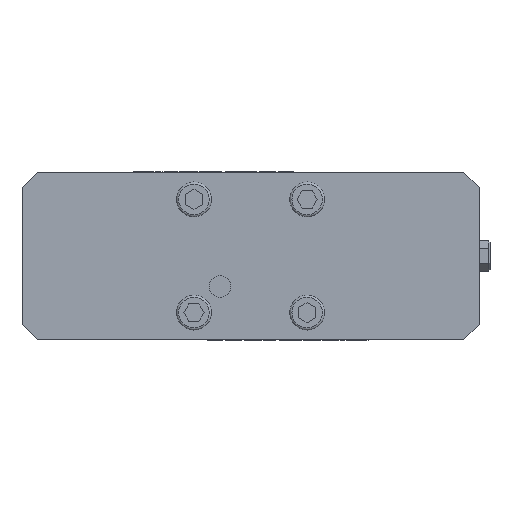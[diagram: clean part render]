
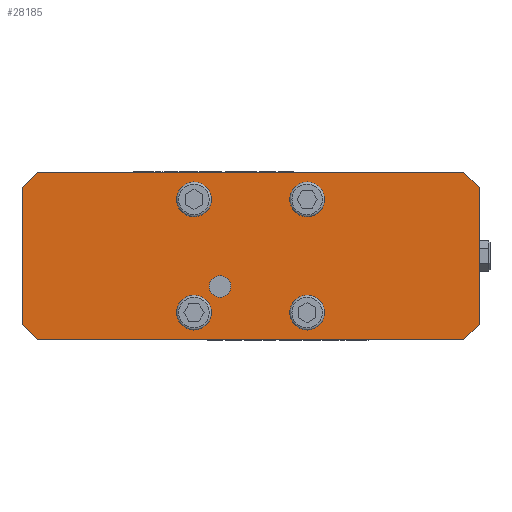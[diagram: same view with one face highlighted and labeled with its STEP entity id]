
A CAD part, front view. The second image highlights one B-rep face of the part: STEP entity #28185.
In plain terms, the highlighted planar face has unit normal (0, -1, 0).
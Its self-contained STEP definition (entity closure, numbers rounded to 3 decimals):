
#14 = DIRECTION ( 'NONE',  ( 0., 0., -1. ) ) ;
#155 = EDGE_LOOP ( 'NONE', ( #32147, #12538, #28927, #29296, #6470, #33580, #22033, #28807 ) ) ;
#275 = VERTEX_POINT ( 'NONE', #18134 ) ;
#702 = FACE_BOUND ( 'NONE', #33948, .T. ) ;
#783 = CARTESIAN_POINT ( 'NONE',  ( 26., 0., 26. ) ) ;
#989 = EDGE_CURVE ( 'NONE', #9823, #9823, #19370, .T. ) ;
#1080 = EDGE_LOOP ( 'NONE', ( #4670 ) ) ;
#1379 = FACE_OUTER_BOUND ( 'NONE', #155, .T. ) ;
#2511 = EDGE_CURVE ( 'NONE', #36666, #3807, #13065, .T. ) ;
#2675 = DIRECTION ( 'NONE',  ( 0., 0., -1. ) ) ;
#2686 = LINE ( 'NONE', #23430, #21104 ) ;
#2798 = AXIS2_PLACEMENT_3D ( 'NONE', #39725, #22698, #22918 ) ;
#3375 = EDGE_CURVE ( 'NONE', #36666, #20700, #42544, .T. ) ;
#3541 = CIRCLE ( 'NONE', #2798, 6. ) ;
#3807 = VERTEX_POINT ( 'NONE', #24699 ) ;
#4638 = DIRECTION ( 'NONE',  ( 1., 0., 0. ) ) ;
#4670 = ORIENTED_EDGE ( 'NONE', *, *, #6552, .F. ) ;
#5227 = AXIS2_PLACEMENT_3D ( 'NONE', #783, #14339, #30860 ) ;
#5484 = LINE ( 'NONE', #19267, #41872 ) ;
#6470 = ORIENTED_EDGE ( 'NONE', *, *, #2511, .F. ) ;
#6552 = EDGE_CURVE ( 'NONE', #17693, #17693, #41516, .T. ) ;
#6769 = EDGE_CURVE ( 'NONE', #17487, #17487, #26479, .T. ) ;
#6988 = AXIS2_PLACEMENT_3D ( 'NONE', #24177, #26911, #14 ) ;
#8017 = CARTESIAN_POINT ( 'NONE',  ( -26., 0., -26. ) ) ;
#8736 = LINE ( 'NONE', #25924, #33546 ) ;
#8985 = ORIENTED_EDGE ( 'NONE', *, *, #37872, .F. ) ;
#9098 = DIRECTION ( 'NONE',  ( -0.707, 0., -0.707 ) ) ;
#9152 = AXIS2_PLACEMENT_3D ( 'NONE', #17689, #28114, #12004 ) ;
#9823 = VERTEX_POINT ( 'NONE', #33718 ) ;
#10687 = CARTESIAN_POINT ( 'NONE',  ( -26., 0., 20. ) ) ;
#11490 = EDGE_CURVE ( 'NONE', #21698, #11630, #38522, .T. ) ;
#11630 = VERTEX_POINT ( 'NONE', #33387 ) ;
#11969 = DIRECTION ( 'NONE',  ( 0., 1., 0. ) ) ;
#12004 = DIRECTION ( 'NONE',  ( 0., 0., 1. ) ) ;
#12352 = EDGE_CURVE ( 'NONE', #14620, #32855, #8736, .T. ) ;
#12538 = ORIENTED_EDGE ( 'NONE', *, *, #32262, .T. ) ;
#12654 = EDGE_LOOP ( 'NONE', ( #26897 ) ) ;
#12833 = CARTESIAN_POINT ( 'NONE',  ( 105., 0., -38.5 ) ) ;
#13065 = LINE ( 'NONE', #12833, #28492 ) ;
#13228 = LINE ( 'NONE', #44526, #40751 ) ;
#14291 = VERTEX_POINT ( 'NONE', #10687 ) ;
#14317 = DIRECTION ( 'NONE',  ( -0.707, 0., 0.707 ) ) ;
#14339 = DIRECTION ( 'NONE',  ( 0., -1., 0. ) ) ;
#14543 = LINE ( 'NONE', #30900, #40081 ) ;
#14620 = VERTEX_POINT ( 'NONE', #25053 ) ;
#15437 = EDGE_CURVE ( 'NONE', #18486, #21698, #14543, .T. ) ;
#15552 = CARTESIAN_POINT ( 'NONE',  ( 105., 0., -31.5 ) ) ;
#17058 = EDGE_CURVE ( 'NONE', #18486, #20700, #13228, .T. ) ;
#17487 = VERTEX_POINT ( 'NONE', #35437 ) ;
#17689 = CARTESIAN_POINT ( 'NONE',  ( 26., 0., -26. ) ) ;
#17693 = VERTEX_POINT ( 'NONE', #28118 ) ;
#18134 = CARTESIAN_POINT ( 'NONE',  ( 20., 0., 26. ) ) ;
#18486 = VERTEX_POINT ( 'NONE', #29312 ) ;
#19125 = DIRECTION ( 'NONE',  ( 0., 0., -1. ) ) ;
#19267 = CARTESIAN_POINT ( 'NONE',  ( -98., 0., 38.5 ) ) ;
#19370 = CIRCLE ( 'NONE', #26594, 6. ) ;
#20668 = CARTESIAN_POINT ( 'NONE',  ( 98., 0., 38.5 ) ) ;
#20700 = VERTEX_POINT ( 'NONE', #42457 ) ;
#21104 = VECTOR ( 'NONE', #26838, 1000. ) ;
#21276 = CARTESIAN_POINT ( 'NONE',  ( 105., 0., 38.5 ) ) ;
#21698 = VERTEX_POINT ( 'NONE', #20668 ) ;
#21828 = DIRECTION ( 'NONE',  ( 0., -1., 0. ) ) ;
#22033 = ORIENTED_EDGE ( 'NONE', *, *, #17058, .F. ) ;
#22698 = DIRECTION ( 'NONE',  ( 0., -1., 0. ) ) ;
#22918 = DIRECTION ( 'NONE',  ( 0., 0., -1. ) ) ;
#23250 = DIRECTION ( 'NONE',  ( -1., 0., 0. ) ) ;
#23430 = CARTESIAN_POINT ( 'NONE',  ( -98., 0., -38.5 ) ) ;
#24177 = CARTESIAN_POINT ( 'NONE',  ( -14., 0., -14. ) ) ;
#24699 = CARTESIAN_POINT ( 'NONE',  ( -98., 0., -38.5 ) ) ;
#25053 = CARTESIAN_POINT ( 'NONE',  ( -105., 0., 31.5 ) ) ;
#25091 = FACE_BOUND ( 'NONE', #32739, .T. ) ;
#25310 = CARTESIAN_POINT ( 'NONE',  ( 105., 0., -38.5 ) ) ;
#25924 = CARTESIAN_POINT ( 'NONE',  ( -105., 0., -38.5 ) ) ;
#26323 = EDGE_CURVE ( 'NONE', #32855, #3807, #2686, .T. ) ;
#26479 = CIRCLE ( 'NONE', #6988, 5. ) ;
#26594 = AXIS2_PLACEMENT_3D ( 'NONE', #8017, #21828, #4638 ) ;
#26838 = DIRECTION ( 'NONE',  ( 0.707, 0., -0.707 ) ) ;
#26897 = ORIENTED_EDGE ( 'NONE', *, *, #33418, .F. ) ;
#26911 = DIRECTION ( 'NONE',  ( 0., -1., 0. ) ) ;
#28074 = PLANE ( 'NONE',  #38033 ) ;
#28114 = DIRECTION ( 'NONE',  ( 0., -1., 0. ) ) ;
#28118 = CARTESIAN_POINT ( 'NONE',  ( 26., 0., -20. ) ) ;
#28185 = ADVANCED_FACE ( 'NONE', ( #39191, #41715, #32285, #25091, #702, #1379 ), #28074, .F. ) ;
#28339 = CIRCLE ( 'NONE', #5227, 6. ) ;
#28492 = VECTOR ( 'NONE', #23250, 1000. ) ;
#28807 = ORIENTED_EDGE ( 'NONE', *, *, #15437, .T. ) ;
#28927 = ORIENTED_EDGE ( 'NONE', *, *, #12352, .T. ) ;
#29296 = ORIENTED_EDGE ( 'NONE', *, *, #26323, .T. ) ;
#29312 = CARTESIAN_POINT ( 'NONE',  ( 105., 0., 31.5 ) ) ;
#30645 = VECTOR ( 'NONE', #39193, 1000. ) ;
#30860 = DIRECTION ( 'NONE',  ( -1., 0., 0. ) ) ;
#30900 = CARTESIAN_POINT ( 'NONE',  ( 105., 0., 31.5 ) ) ;
#32138 = VECTOR ( 'NONE', #36229, 1000. ) ;
#32147 = ORIENTED_EDGE ( 'NONE', *, *, #11490, .T. ) ;
#32262 = EDGE_CURVE ( 'NONE', #11630, #14620, #5484, .T. ) ;
#32285 = FACE_BOUND ( 'NONE', #1080, .T. ) ;
#32739 = EDGE_LOOP ( 'NONE', ( #41787 ) ) ;
#32855 = VERTEX_POINT ( 'NONE', #34070 ) ;
#33387 = CARTESIAN_POINT ( 'NONE',  ( -98., 0., 38.5 ) ) ;
#33418 = EDGE_CURVE ( 'NONE', #275, #275, #28339, .T. ) ;
#33546 = VECTOR ( 'NONE', #19125, 1000. ) ;
#33580 = ORIENTED_EDGE ( 'NONE', *, *, #3375, .T. ) ;
#33718 = CARTESIAN_POINT ( 'NONE',  ( -20., 0., -26. ) ) ;
#33948 = EDGE_LOOP ( 'NONE', ( #8985 ) ) ;
#34070 = CARTESIAN_POINT ( 'NONE',  ( -105., 0., -31.5 ) ) ;
#35437 = CARTESIAN_POINT ( 'NONE',  ( -14., 0., -19. ) ) ;
#35910 = CARTESIAN_POINT ( 'NONE',  ( 98., 0., -38.5 ) ) ;
#36229 = DIRECTION ( 'NONE',  ( 0.707, 0., 0.707 ) ) ;
#36666 = VERTEX_POINT ( 'NONE', #35910 ) ;
#37607 = ORIENTED_EDGE ( 'NONE', *, *, #6769, .F. ) ;
#37872 = EDGE_CURVE ( 'NONE', #14291, #14291, #3541, .T. ) ;
#38033 = AXIS2_PLACEMENT_3D ( 'NONE', #25310, #11969, #39645 ) ;
#38522 = LINE ( 'NONE', #21276, #30645 ) ;
#39150 = EDGE_LOOP ( 'NONE', ( #37607 ) ) ;
#39191 = FACE_BOUND ( 'NONE', #39150, .T. ) ;
#39193 = DIRECTION ( 'NONE',  ( -1., 0., 0. ) ) ;
#39645 = DIRECTION ( 'NONE',  ( 0., 0., 1. ) ) ;
#39725 = CARTESIAN_POINT ( 'NONE',  ( -26., 0., 26. ) ) ;
#40081 = VECTOR ( 'NONE', #14317, 1000. ) ;
#40751 = VECTOR ( 'NONE', #2675, 1000. ) ;
#41516 = CIRCLE ( 'NONE', #9152, 6. ) ;
#41715 = FACE_BOUND ( 'NONE', #12654, .T. ) ;
#41787 = ORIENTED_EDGE ( 'NONE', *, *, #989, .F. ) ;
#41872 = VECTOR ( 'NONE', #9098, 1000. ) ;
#42457 = CARTESIAN_POINT ( 'NONE',  ( 105., 0., -31.5 ) ) ;
#42544 = LINE ( 'NONE', #15552, #32138 ) ;
#44526 = CARTESIAN_POINT ( 'NONE',  ( 105., 0., -38.5 ) ) ;
